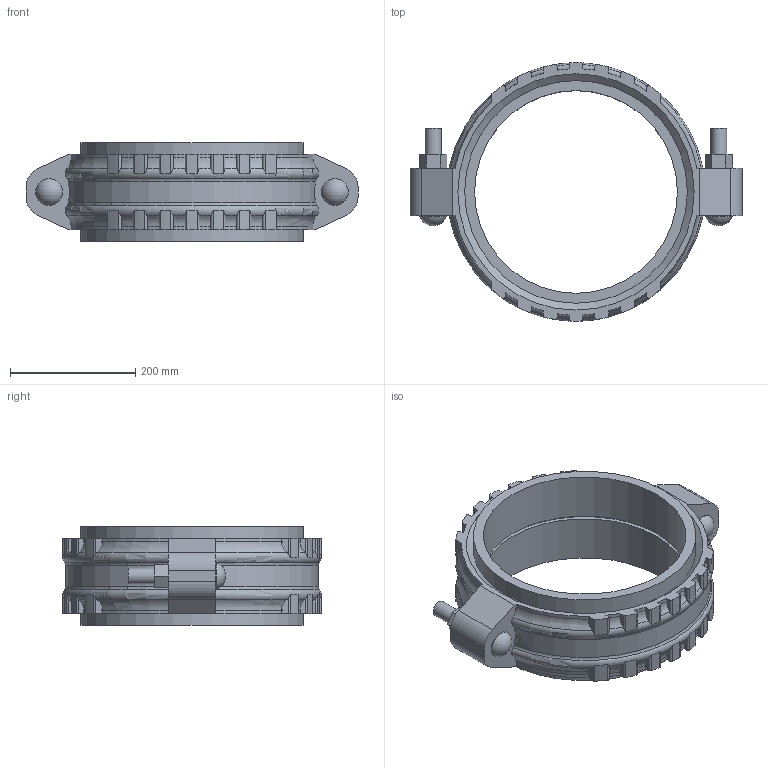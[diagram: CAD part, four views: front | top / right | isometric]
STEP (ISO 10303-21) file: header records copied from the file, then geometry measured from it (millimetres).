
FILE_DESCRIPTION(/* description */ ('VIC COUPLING FLEX STYLE W77 AGS VIC-RING ','CAx-IF Rec.Pracs.---Representation and Presentation of Product Manufacturing Information (PMI)---4.0---2014-10-13'),/* implementation_level */ '2;1');
FILE_NAME(/* name */ 'C:\Users\Vjadhav\AppData\Roaming\Autodesk\ApplicationPlugins\Victaulic.Temp\A52\Victaulic_Vic-Ring_Coupling Flexible_Style W77 (AGR)_14 (350).stp',/* time_stamp */ '2021-12-20T11:04:37+06:00',/* author */ ('Vjadhav'),/* organization */ ('Victaulic'),/* preprocessor_version */ 'ST-DEVELOPER v17.2',/* originating_system */ 'Autodesk Inventor 2019',/* authorisation */ '');
FILE_SCHEMA (('AP242_MANAGED_MODEL_BASED_3D_ENGINEERING_MIM_LF { 1 0 10303 442 1 1 4 }'));
Length unit declared in the file: inch
Products named in the file (3): W77 VR-14.0; W77 VR-14.0_1; W77 VR-14.0_2
Assembly tree (3 placements, depth 2):
  W77 VR-14.0
    W77 VR-14.0_1
    W77 VR-14.0_2  x2
Bounding box: 530.35 x 412.71 x 157.99 mm (x, y, z)
Volume: 6961536.4 mm3; surface area: 834019.5 mm2
Topology: 3 solids, 5 shells, 285 faces, 937 edges, 614 vertices
Faces by surface type: cylinder 171, plane 98, torus 12, sphere 2, cone 2
Full cylindrical faces by diameter (mm): 25.4 x4, 42.85 x2, 323.85 x2, 336.55 x1, 355.6 x4
Entity records: 12049 total; most frequent: CARTESIAN_POINT 3512, ORIENTED_EDGE 1854, DIRECTION 1643, EDGE_CURVE 927, AXIS2_PLACEMENT_3D 625, VERTEX_POINT 606, LINE 393, VECTOR 393
